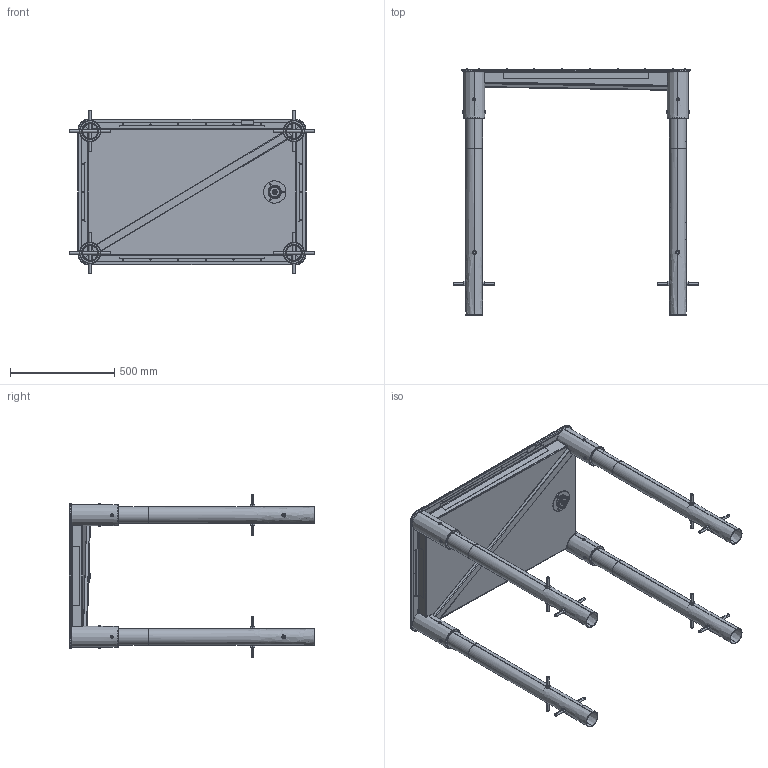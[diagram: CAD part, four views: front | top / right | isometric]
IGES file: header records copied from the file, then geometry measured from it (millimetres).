
Start section: SolidWorks IGES file using analytic representation for surfaces
Global section: file name: C:\Users\user18\OneDrive - KBT\Pulpit\KORONA-KOPIA\Water_Arek_Karol\XXX. Basic Water System\570.202.020.01x Mud Pool - 38cm\11. Modele 3D dla klientów\570.202.020.012 - Mud pool 38cm CA.IGS; native system: SolidWorks 2018; preprocessor: SolidWorks 2018; author: user18; date: 210325.092154; units: millimetre
Bounding box: 1178 x 1181.1 x 785 mm (x, y, z)
Surface area: 4885214 mm2 (no closed solid volume)
Topology: 0 solids, 0 shells, 788 faces, 15674 edges, 15666 vertices
Faces by surface type: bspline 447, revolution 341
